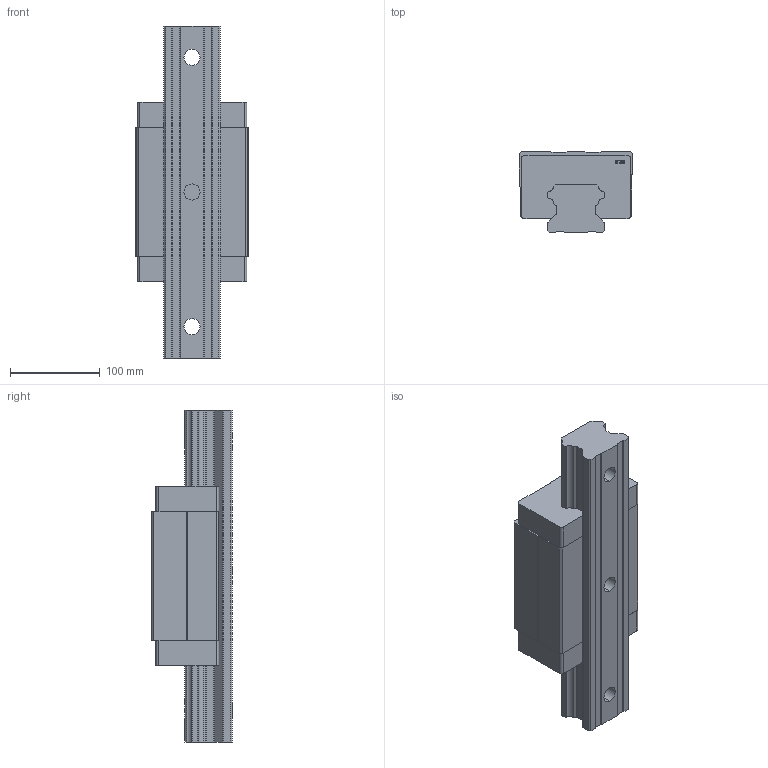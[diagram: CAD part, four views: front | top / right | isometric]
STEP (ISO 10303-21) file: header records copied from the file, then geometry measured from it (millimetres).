
FILE_DESCRIPTION (( 'STEP AP214' ), '1' );
FILE_NAME ('7.1023 Lineaarikelkka HTH65CA.STEP', '2026-03-11T06:43:39', ( '' ), ( '' ), 'SwSTEP 2.0', 'SolidWorks 2025', '' );
FILE_SCHEMA (( 'AUTOMOTIVE_DESIGN' ));
Length unit declared in the file: millimetre
Products named in the file (3): 7.1023 Lineaarikelkka HTH65CA; HTR65; HTH65
Assembly tree (2 placements, depth 2):
  7.1023 Lineaarikelkka HTH65CA
    HTH65
    HTR65
Bounding box: 126 x 90 x 370 mm (x, y, z)
Volume: 2413273.7 mm3; surface area: 218932.1 mm2
Topology: 2 solids, 2 shells, 228 faces, 618 edges, 412 vertices
Faces by surface type: plane 157, cylinder 46, bspline 25
Entity records: 11794 total; most frequent: CARTESIAN_POINT 3488, ORIENTED_EDGE 1236, DIRECTION 1076, EDGE_CURVE 618, LINE 476, VECTOR 476, VERTEX_POINT 412, AXIS2_PLACEMENT_3D 300
